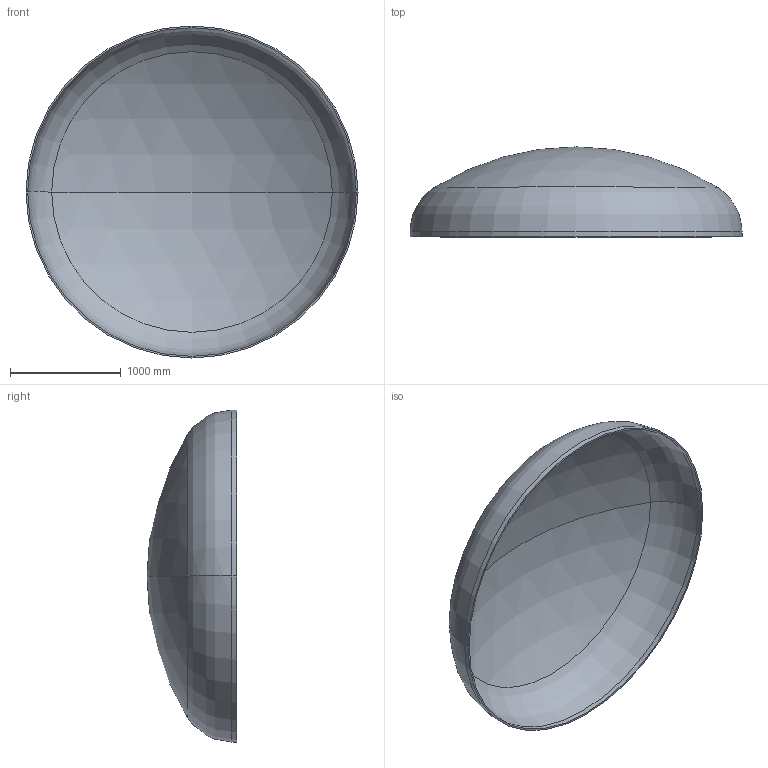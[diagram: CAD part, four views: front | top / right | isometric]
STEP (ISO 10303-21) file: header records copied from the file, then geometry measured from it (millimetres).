
FILE_DESCRIPTION (( 'STEP AP203' ), '1' );
FILE_NAME ('DIN 28013 Korbbogenform_-_Boden DIN 28013 - 3000 x 45 - I - s=15.step', '2016-07-01T17:31:16', ( '' ), ( '' ), 'SwSTEP 2.0', 'SolidWorks 2013', '' );
FILE_SCHEMA (( 'CONFIG_CONTROL_DESIGN' ));
Length unit declared in the file: millimetre
Products named in the file (1): DIN 28013 Korbbogenform_-_Boden DIN 28013 - 3000 x 45 - I - s=15
Bounding box: 3000 x 812.89 x 3000 mm (x, y, z)
Volume: 152092854.3 mm3; surface area: 20420175.2 mm2
Topology: 1 solids, 1 shells, 13 faces, 24 edges, 14 vertices
Faces by surface type: torus 4, cylinder 4, sphere 4, plane 1
Entity records: 407 total; most frequent: DIRECTION 72, CARTESIAN_POINT 52, ORIENTED_EDGE 48, AXIS2_PLACEMENT_3D 34, EDGE_CURVE 24, CIRCLE 20, VERTEX_POINT 14, EDGE_LOOP 14
